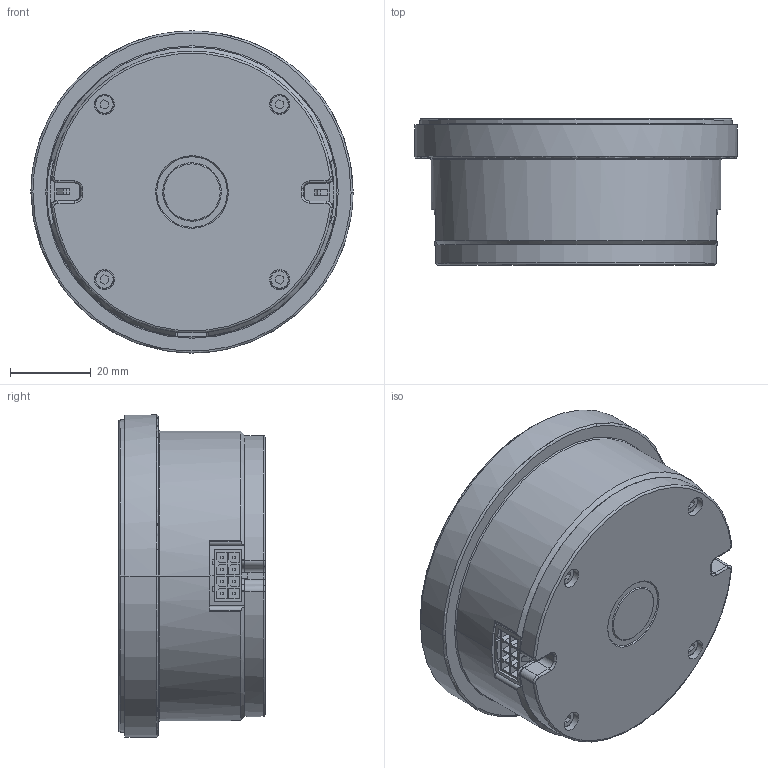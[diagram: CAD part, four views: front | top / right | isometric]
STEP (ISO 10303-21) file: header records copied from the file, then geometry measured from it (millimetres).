
FILE_DESCRIPTION (( 'STEP AP214' ), '1' );
FILE_NAME ('DD-6010_v2_2.STEP', '2019-05-07T10:29:44', ( 'Microsoft' ), ( 'Microsoft' ), 'SwSTEP 2.0', 'SolidWorks 2018', '' );
FILE_SCHEMA (( 'AUTOMOTIVE_DESIGN' ));
Length unit declared in the file: millimetre
Products named in the file (1): DD-6010_v2_2
Bounding box: 80 x 36.3 x 80 mm (x, y, z)
Volume: 134034.5 mm3; surface area: 50398.4 mm2
Topology: 12 solids, 12 shells, 1287 faces, 3385 edges, 2169 vertices
Faces by surface type: plane 923, cylinder 226, cone 88, torus 35, bspline 15
Entity records: 55696 total; most frequent: CARTESIAN_POINT 9938, ORIENTED_EDGE 6722, DIRECTION 6083, EDGE_CURVE 3361, VECTOR 2657, LINE 2657, VERTEX_POINT 2169, AXIS2_PLACEMENT_3D 1713
